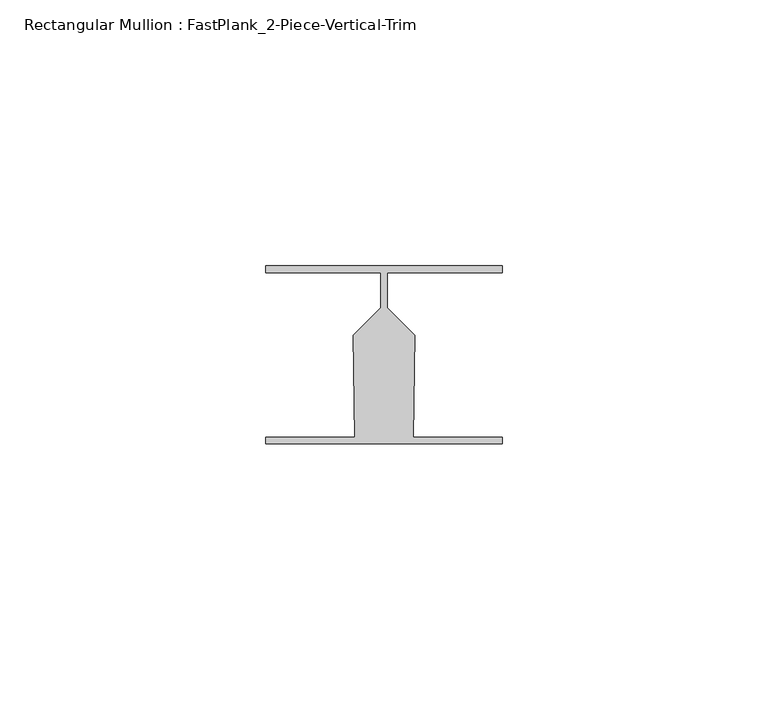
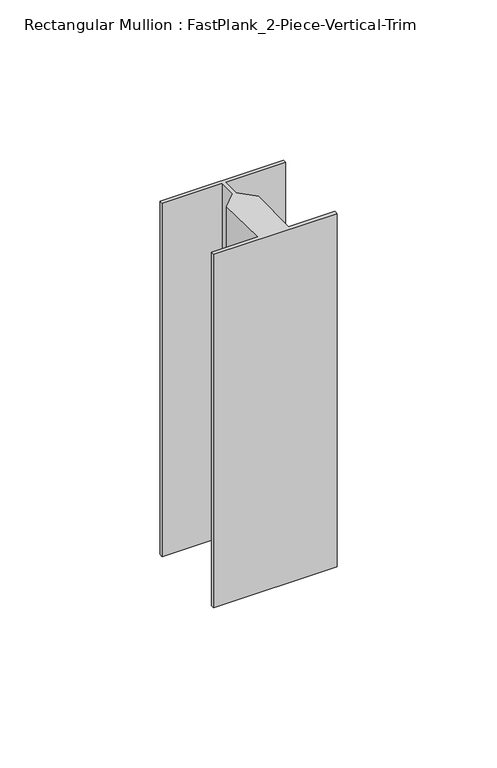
"""IFC4 building model written with IfcOpenShell, lengths in millimetres: member geometry, Rectangular Mullion : FastPlank_2-Piece-Vertical-Trim."""

from ifc_helpers import new_model, si_unit, frame, origin, place, context, project, spatial, polyline, outline, extrude, source, transform, mapped, element, save


def rectangular_mullion_fastplank_2_piece_vertical_trim_7b95ae3f(model_context):
    return source(origin(), model_context, "Body", "SweptSolid", [
        extrude(outline(polyline([(22.2251761, 11.8625052), (22.2251761, 10.5625078), (0.6499987, 10.5625078), (0.6499987, 3.992521), (5.8241876, -1.1816679), (5.4899028, -20.332833), (22.2251761, -20.332833), (22.2251761, -21.6328304), (-22.2251761, -21.6328304), (-22.2251761, -20.332833), (-5.4899028, -20.332833), (-5.8241876, -1.1816679), (-0.6499987, 3.992521), (-0.6499987, 10.5625078), (-22.2251761, 10.5625078), (-22.2251761, 11.8625052), (22.2251761, 11.8625052)])), frame((0.0, 0.0, -134.6500189), z_axis=(0.0, 0.0, 1.0), x_axis=(1.0, 0.0, 0.0)), (0.0, 0.0, 1.0), 134.6500189),
    ])


if __name__ == "__main__":
    model = new_model("IFC4")
    model_context = context("Model", 3, world=origin())
    ifc_project = project(units=[si_unit("LENGTHUNIT", "METRE", prefix="MILLI")], contexts=[model_context])
    site = spatial("IfcSite", under=ifc_project)
    building = spatial("IfcBuilding", under=site)
    placement = place(None, origin())
    rectangular_mullion_fastplank_2_piece_vertical_trim_shape = rectangular_mullion_fastplank_2_piece_vertical_trim_7b95ae3f(model_context)
    element("IfcMember", 1, ObjectType="Rectangular Mullion : FastPlank_2-Piece-Vertical-Trim", at=placement, inside=building, context=model_context, shape_type="MappedRepresentation", body=[
        mapped(rectangular_mullion_fastplank_2_piece_vertical_trim_shape, transform((0.0, 0.0, 0.0), x_axis=(1.0, 0.0, 0.0), y_axis=(0.0, 1.0, 0.0), z_axis=(0.0, 0.0, 1.0))),
    ])
    save(model, "model.ifc")
